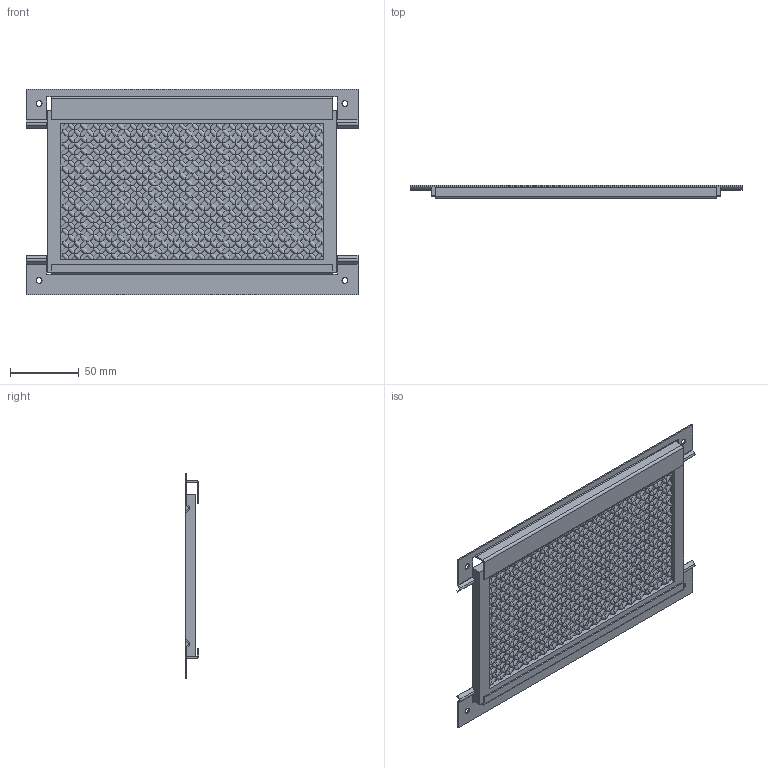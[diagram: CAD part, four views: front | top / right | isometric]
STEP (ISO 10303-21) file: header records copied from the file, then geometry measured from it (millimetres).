
FILE_DESCRIPTION((''),'2;1');
FILE_NAME('SCE-FLT84_ASM','2021-06-28T16:20:07',('johnh'),('SAGINAW CONTROL & ENGINEERING'),'CREO PARAMETRIC BY PTC INC, 2017260','CREO PARAMETRIC BY PTC INC, 2017260','');
FILE_SCHEMA(('AUTOMOTIVE_DESIGN { 1 0 10303 214 1 1 1 1 }'));
Length unit declared in the file: inch
Products named in the file (4): 116914; 116915; 106275; SCE-FLT84_ASM
Assembly tree (3 placements, depth 2):
  SCE-FLT84_ASM
    116914
    116915
    106275
Bounding box: 241.3 x 9.75 x 149.15 mm (x, y, z)
Volume: 98424.3 mm3; surface area: 96843.5 mm2
Topology: 3 solids, 3 shells, 2988 faces, 8028 edges, 5048 vertices
Faces by surface type: cylinder 1880, plane 1108
Entity records: 110398 total; most frequent: CARTESIAN_POINT 42707, ORIENTED_EDGE 16056, DIRECTION 10266, EDGE_CURVE 8028, VERTEX_POINT 5048, VECTOR 4132, LINE 4132, B_SPLINE_CURVE_WITH_KNOTS 3824
